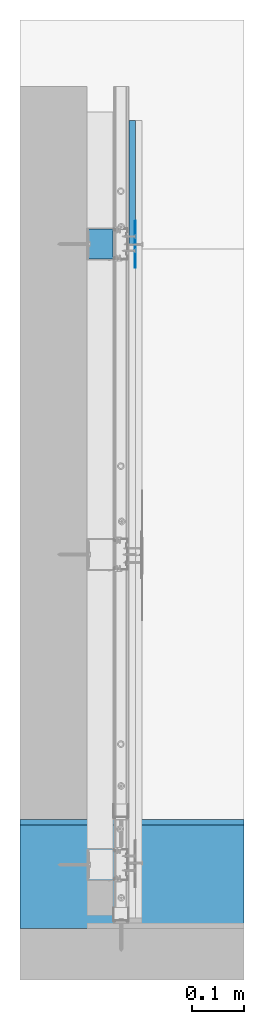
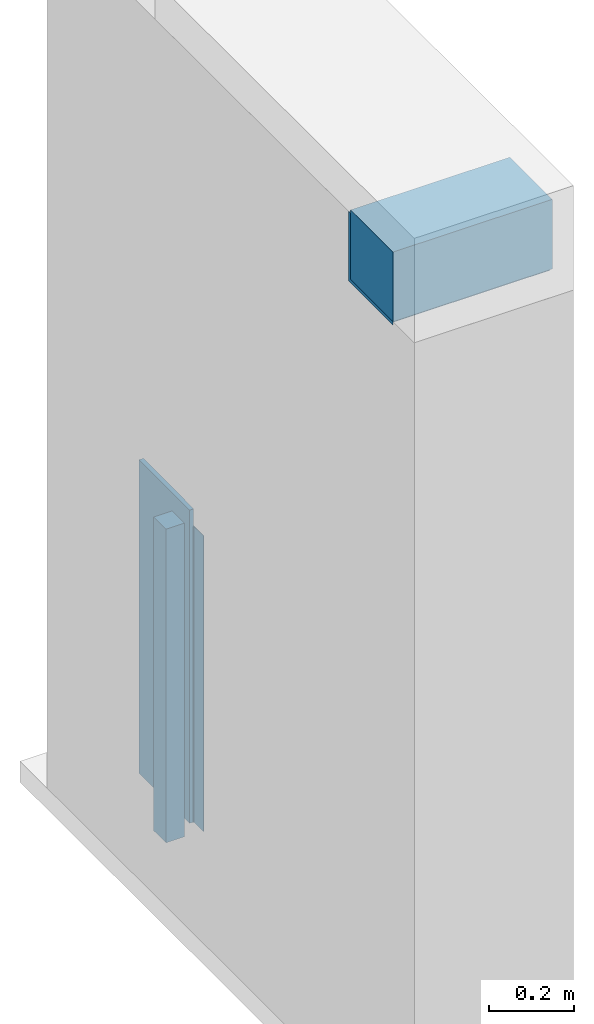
# One storey, part 8 of 62: 5 walls.
"""IFC2X3 building model written with IfcOpenShell, lengths in millimetres."""

from ifc_helpers import new_model, si_unit, frame, origin_with_axes, place, context, subcontext, project, spatial, faceted_brep, material, type_object, element, save


model = new_model("IFC2X3")

# Units and contexts
model_context = context("Model", 3, world=origin_with_axes())
body_context = subcontext(model_context, "Body", "Model", "MODEL_VIEW")
ifc_project = project(units=[si_unit("LENGTHUNIT", "METRE", prefix="MILLI"), si_unit("AREAUNIT", "SQUARE_METRE"), si_unit("VOLUMEUNIT", "CUBIC_METRE")], contexts=[model_context])

# Site, building, storey
site_placement = place(None, frame((2152.14102611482, -2015.0250894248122, 57.61556563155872), z_axis=(0.0, 0.0, 1.0), x_axis=(-1.1102230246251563e-16, 1.0, 0.0)))
site = spatial("IfcSite", under=ifc_project, at=site_placement, Name="Default Site", CompositionType="ELEMENT")
building_placement = place(site_placement, origin_with_axes())
building = spatial("IfcBuilding", under=site, at=building_placement, Name="Default Building", CompositionType="ELEMENT")
storey_placement = place(building_placement, origin_with_axes())
storey = spatial("IfcBuildingStorey", under=building, at=storey_placement, Name="Default Building Storey", CompositionType="ELEMENT", Elevation=57.61556563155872)

# Walls
ifc_material_1 = material(Name="Undefined7")
wall_type_1 = type_object("IfcWallType", Name="Płyta gipsowo-kartonowa RIGIPS PRO (4PRO™)#3", PredefinedType="NOTDEFINED")
wall_1_placement = place(storey_placement, frame((3423.4296487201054, 1941.1800775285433, 1162.3900398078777), z_axis=(0.0, 0.0, 1.0), x_axis=(1.0, 0.0, 0.0)))
element("IfcWall", 1, at=wall_1_placement, inside=storey, type_object=wall_type_1, material=ifc_material_1, Name="Płyta gipsowo-kartonowa RIGIPS PRO (4PRO™)", context=body_context, shape_type="Brep", body=[
    faceted_brep([(253.6109685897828, -12.500000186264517, -1150.001525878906), (253.6109685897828, 1.6315198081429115e-10, -1150.001525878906), (253.6109685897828, 1.6351293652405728e-10, -250.0), (253.6109685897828, -12.500000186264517, -250.0), (14.943075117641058, -10.999999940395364, -1150.001525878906), (14.943075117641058, -10.999999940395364, -250.0), (14.843174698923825, -10.758819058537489, -250.0), (14.843174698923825, -10.758819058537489, -1150.001525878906), (14.809100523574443, -10.49999985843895, -1150.001525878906), (14.809100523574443, -10.49999985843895, -250.0), (14.80910052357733, 0.0, -250.0), (14.80910052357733, 0.0, -1150.001525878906), (15.309100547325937, -11.366025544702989, -250.0), (15.5502814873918, -11.465925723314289, -250.0), (15.809100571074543, -11.500000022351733, -250.0), (55.80910165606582, -11.500000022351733, -250.0), (59.809102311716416, -12.500000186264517, -250.0), (15.101993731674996, -11.207106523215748, -250.0), (55.80910165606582, -11.500000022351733, -1150.001525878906), (59.809102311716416, -12.500000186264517, -1150.001525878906), (15.809100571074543, -11.500000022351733, -1150.001525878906), (15.309100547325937, -11.366025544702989, -1150.001525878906), (15.5502814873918, -11.465925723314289, -1150.001525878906), (15.101993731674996, -11.207106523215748, -1150.001525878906)], [[[0, 1, 2, 3]], [[4, 5, 6, 7]], [[8, 9, 10, 11]], [[12, 13, 14, 15, 16, 3, 2, 10, 9, 6, 5, 17]], [[18, 19, 16, 15]], [[20, 18, 15, 14]], [[21, 22, 13, 12]], [[23, 17, 5, 4]], [[22, 20, 14, 13]], [[23, 21, 12, 17]], [[7, 6, 9, 8]], [[19, 0, 3, 16]], [[10, 2, 1, 11]], [[19, 18, 20, 22, 21, 23, 4, 7, 8, 11, 1, 0]]]),
])
ifc_material_2 = material(Name="Undefined5")
wall_type_2 = type_object("IfcWallType", Name="Masa szpachlowa konstrukcyjna RIGIPS#2", PredefinedType="NOTDEFINED")
wall_2_placement = place(storey_placement, frame((4174.888865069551, 5319.236799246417, 261.590039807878), z_axis=(0.0, 0.0, 1.0), x_axis=(1.0, 0.0, 0.0)))
element("IfcWall", 2, at=wall_2_placement, inside=storey, type_object=wall_type_2, material=ifc_material_2, Name="Masa szpachlowa konstrukcyjna RIGIPS", context=body_context, shape_type="Brep", body=[
    faceted_brep([(-737.5571131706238, -3387.974739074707, 600.7999777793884), (-737.6772165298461, -3388.2646560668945, 600.7999777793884), (-737.8411889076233, -3388.532400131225, 600.7999777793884), (-738.0449771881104, -3388.770818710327, 600.7999777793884), (-738.283634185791, -3388.9746665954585, 600.7999777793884), (-738.5512590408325, -3389.138698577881, 600.7999777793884), (-738.84117603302, -3389.258861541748, 600.7999777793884), (-739.14635181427, -3389.3320560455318, 600.7999777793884), (-739.459216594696, -3389.3566131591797, 600.7999777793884), (-782.4591994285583, -3389.3566131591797, 600.7999777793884), (-782.4591994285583, -3390.556812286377, 600.7999777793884), (-691.4592385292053, -3390.556812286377, 600.7999777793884), (-692.459225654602, -3389.3566131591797, 600.7999777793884), (-735.4592084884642, -3389.3566131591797, 600.7999777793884), (-735.7720732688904, -3389.3320560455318, 600.7999777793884), (-736.0772490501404, -3389.258861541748, 600.7999777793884), (-736.3672256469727, -3389.138698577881, 600.7999777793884), (-736.6347908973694, -3388.9746665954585, 600.7999777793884), (-736.87344789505, -3388.770818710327, 600.7999777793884), (-737.0772361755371, -3388.532400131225, 600.7999777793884), (-737.2412085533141, -3388.2646560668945, 600.7999777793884), (-737.3613119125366, -3387.974739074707, 600.7999777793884), (-737.4345660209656, -3387.669563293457, 600.7999777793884), (-737.4592423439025, -3387.356758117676, 600.7999777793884), (-737.4838590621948, -3387.669563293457, 600.7999777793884), (-782.4591994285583, -3390.556812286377, -249.20158088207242), (-782.4591994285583, -3389.3566131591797, -249.20158088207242), (-739.459216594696, -3389.3566131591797, -249.20158088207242), (-739.14635181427, -3389.3320560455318, -249.20158088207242), (-738.84117603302, -3389.258861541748, -249.20158088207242), (-738.5512590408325, -3389.138698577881, -249.20158088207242), (-738.283634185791, -3388.9746665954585, -249.20158088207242), (-738.0449771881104, -3388.770818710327, -249.20158088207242), (-737.8411889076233, -3388.532400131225, -249.20158088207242), (-737.6772165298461, -3388.2646560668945, -249.20158088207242), (-737.5571131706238, -3387.974739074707, -249.20158088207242), (-737.4838590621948, -3387.669563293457, -249.20158088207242), (-737.4592423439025, -3387.356758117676, -249.20158088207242), (-737.4345660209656, -3387.669563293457, -249.20158088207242), (-737.3613119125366, -3387.974739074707, -249.20158088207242), (-737.2412085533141, -3388.2646560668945, -249.20158088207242), (-737.0772361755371, -3388.532400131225, -249.20158088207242), (-736.87344789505, -3388.770818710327, -249.20158088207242), (-736.6347908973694, -3388.9746665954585, -249.20158088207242), (-736.3672256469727, -3389.138698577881, -249.20158088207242), (-736.0772490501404, -3389.258861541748, -249.20158088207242), (-735.7720732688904, -3389.3320560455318, -249.20158088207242), (-735.4592084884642, -3389.3566131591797, -249.20158088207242), (-692.459225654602, -3389.3566131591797, -249.20158088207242), (-691.4592385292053, -3390.556812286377, -249.20158088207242)], [[[0, 1, 2, 3, 4, 5, 6, 7, 8, 9, 10, 11, 12, 13, 14, 15, 16, 17, 18, 19, 20, 21, 22, 23, 24]], [[25, 26, 27, 28, 29, 30, 31, 32, 33, 34, 35, 36, 37, 38, 39, 40, 41, 42, 43, 44, 45, 46, 47, 48, 49]], [[47, 13, 12, 48]], [[46, 45, 15, 14]], [[14, 13, 47, 46]], [[15, 45, 44, 16]], [[43, 42, 18, 17]], [[17, 16, 44, 43]], [[41, 40, 20, 19]], [[19, 18, 42, 41]], [[20, 40, 39, 21]], [[38, 37, 23, 22]], [[22, 21, 39, 38]], [[36, 35, 0, 24]], [[24, 23, 37, 36]], [[0, 35, 34, 1]], [[33, 32, 3, 2]], [[2, 1, 34, 33]], [[31, 30, 5, 4]], [[4, 3, 32, 31]], [[5, 30, 29, 6]], [[28, 27, 8, 7]], [[7, 6, 29, 28]], [[26, 9, 8, 27]], [[25, 10, 9, 26]], [[49, 11, 10, 25]], [[48, 12, 11, 49]]]),
])
ifc_material_3 = material(Name="Undefined")
wall_type_3 = type_object("IfcWallType", Name="Wypełnienie z wełny mineralnej szklanej ISOVER#4", PredefinedType="NOTDEFINED")
wall_3_placement = place(storey_placement, frame((3241.176545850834, 5350.42414647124, -7.900000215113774), z_axis=(0.0, 0.0, 1.0), x_axis=(-1.0, 4.718447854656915e-16, 0.0)))
element("IfcWall", 3, at=wall_3_placement, inside=storey, type_object=wall_type_3, material=ifc_material_3, Name="Wypełnienie z wełny mineralnej szklanej ISOVER", context=body_context, shape_type="Brep", body=[
    faceted_brep([(-168.12478005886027, 3328.2832634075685, 911.543607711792), (-225.8247733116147, 3328.2832634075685, 911.543607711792), (-225.8247733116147, 3328.2832634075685, 10.28402615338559), (-168.12478005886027, 3328.2832634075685, 10.28402615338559), (-168.12478005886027, 3378.2831687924, 10.28402615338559), (-168.12478005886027, 3378.2831687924, 911.543607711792), (-225.8247733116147, 3378.283168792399, 911.543607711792), (-225.8247733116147, 3378.283168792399, 10.28402615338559)], [[[0, 1, 2, 3]], [[3, 4, 5, 0]], [[6, 5, 4, 7]], [[7, 4, 3, 2]]]),
    faceted_brep([(-225.8247733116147, 3328.2832634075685, 911.543607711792), (-225.8247733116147, 3378.283168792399, 911.543607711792), (-225.8247733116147, 3378.283168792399, 10.28402615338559), (-225.8247733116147, 3328.2832634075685, 10.28402615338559), (-168.12478005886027, 3328.2832634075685, 911.543607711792), (-168.12478005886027, 3378.2831687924, 911.543607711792)], [[[0, 1, 2, 3]], [[0, 4, 5, 1]]]),
])
ifc_material_4 = material(Name="M05_Graphite_Haze")
wall_type_4 = type_object("IfcWallType", Name="Belka żelbetowa", PredefinedType="NOTDEFINED")
wall_4_placement = place(storey_placement, frame((3683.040564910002, 2049.141026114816, 2327.3944339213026), z_axis=(0.0, 0.0, 1.0), x_axis=(1.0, 0.0, 0.0)))
element("IfcWall", 4, at=wall_4_placement, inside=storey, type_object=wall_type_4, material=ifc_material_4, Name="Belka żelbetowa", context=body_context, shape_type="Brep", body=[
    faceted_brep([(-1367.9999832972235, 103.00000000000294, 3.0000004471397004), (-1367.9999832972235, 103.00000000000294, 203.00000000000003), (-1367.9999832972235, -330.000000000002, 203.00000000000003), (-1367.9999832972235, -330.000000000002, 3.0000004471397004), (-1568.0154759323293, 103.00000000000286, 203.00000000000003), (-1568.0154759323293, 103.00000000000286, 3.0000004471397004), (-1568.0154759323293, -330.0000000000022, 3.0000004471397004), (-1568.0154759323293, -330.0000000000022, 203.00000000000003)], [[[0, 1, 2, 3]], [[4, 5, 6, 7]], [[1, 0, 5, 4]], [[2, 1, 4, 7]], [[3, 2, 7, 6]], [[0, 3, 6, 5]]]),
])
ifc_material_5 = material(Name="M06_Steel_Smoke")
wall_type_5 = type_object("IfcWallType", Name="Profil#1", PredefinedType="NOTDEFINED")
wall_5_placement = place(storey_placement, frame((2328.04058161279, 2049.1410261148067, 4924.404417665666), z_axis=(-1.0, 7.216449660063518e-16, 8.326672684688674e-17), x_axis=(8.326672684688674e-17, -4.622231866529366e-32, 1.0)))
element("IfcWall", 5, at=wall_5_placement, inside=storey, type_object=wall_type_5, material=ifc_material_5, Name="Profil", context=body_context, shape_type="Brep", body=[
    faceted_brep([(-2404.009983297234, 103.00000000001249, 3.0000004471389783), (-2404.009983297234, 103.00000000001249, 12.99999999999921), (-2404.009983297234, -330.0000000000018, 12.99999999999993), (-2404.009983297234, -330.0000000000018, 3.0000004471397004), (-2594.0099832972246, 103.00000000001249, 12.999999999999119), (-2594.0099832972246, -330.0000000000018, 12.99999999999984), (-2594.0099832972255, -330.00000000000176, 203.01549308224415), (-2604.009983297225, -330.00000000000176, 203.01549308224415), (-2604.0099832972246, -330.0000000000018, 3.0000004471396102), (-2604.0099832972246, 103.00000000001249, 3.000000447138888), (-2604.009983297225, 103.00000000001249, 203.01549308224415), (-2594.0099832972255, 103.00000000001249, 203.01549308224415), (-2594.009983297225, 103.00000000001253, 213.01549263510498), (-2604.009983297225, 103.00000000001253, 213.01549263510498), (-2594.009983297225, -330.00000000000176, 213.01549263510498)], [[[0, 1, 2, 3]], [[2, 1, 4, 5]], [[5, 6, 7, 8, 3, 2]], [[3, 8, 9, 0]], [[8, 7, 10, 9]], [[5, 4, 11, 6]], [[12, 11, 4, 1, 0, 9, 10, 13]], [[12, 14, 6, 11]]]),
])

save(model, "model.ifc")
